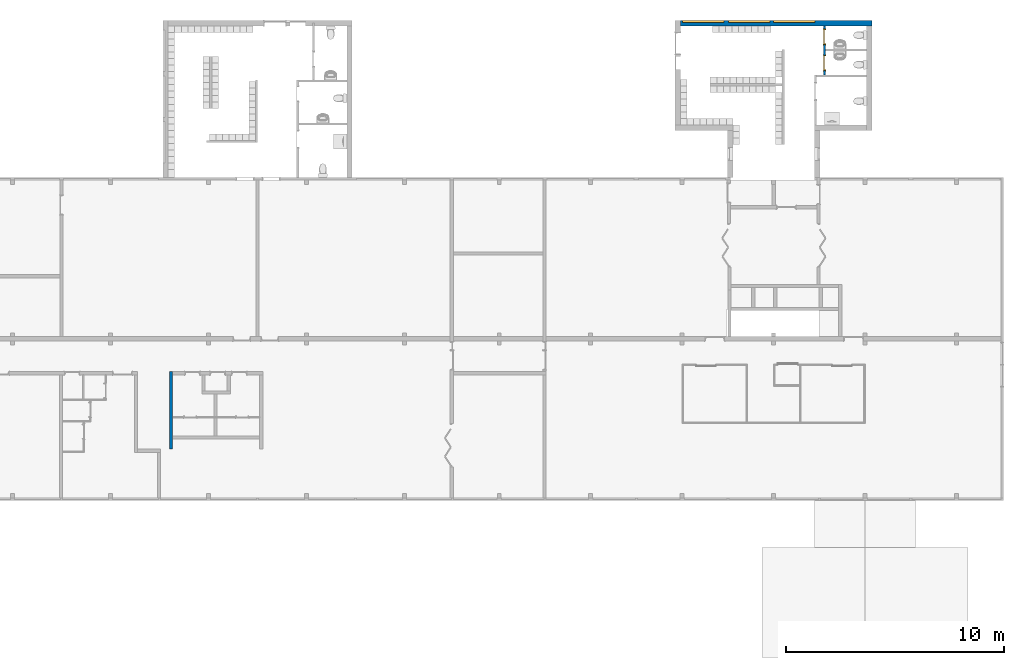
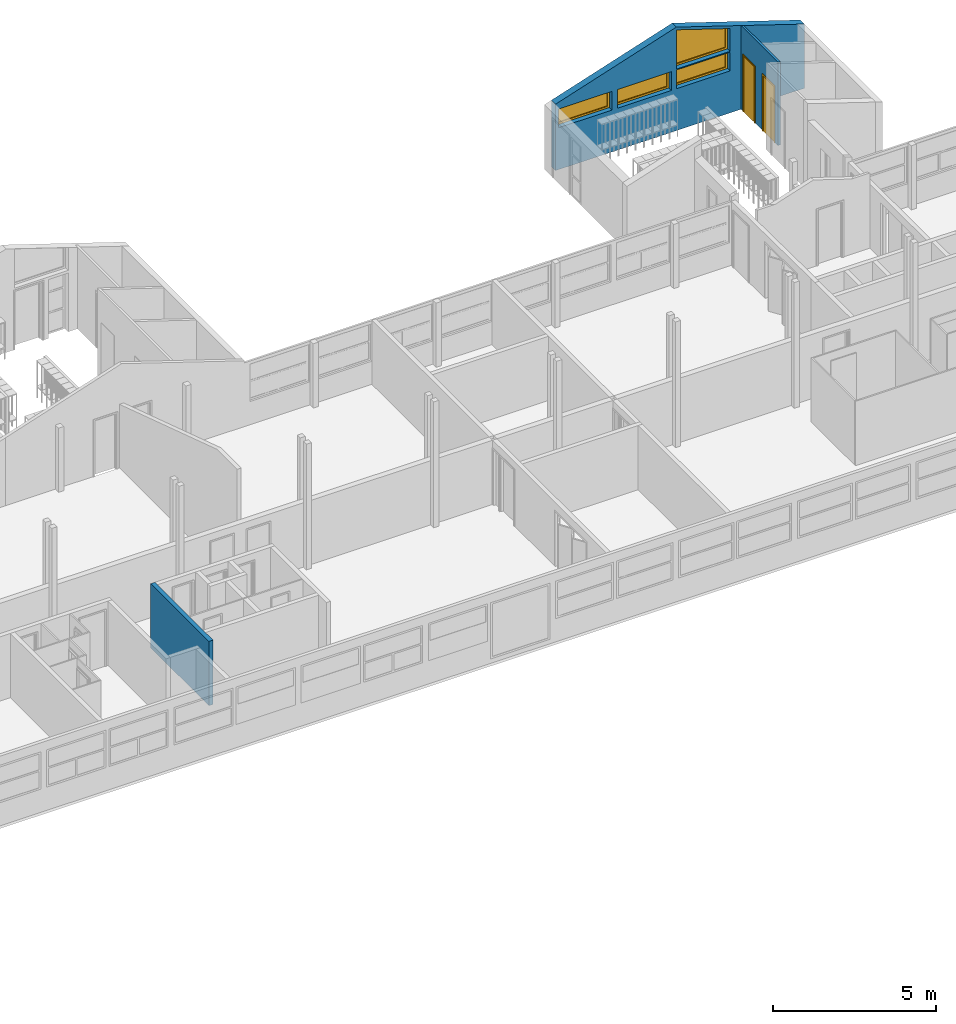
# One storey, part 29 of 48: 4 windows, 3 walls, 2 doors, 6 openings.
"""IFC2X3 building model written with IfcOpenShell, lengths in millimetres."""

from ifc_helpers import new_model, entity, si_unit, converted_unit, derived_unit, money_unit, direction, frame, origin_with_axes, place, context, subcontext, project, spatial, open_shell, faceted_brep, surface_model, source, transform, mapped, material, type_object, element, fill, save


model = new_model("IFC2X3")

# Units and contexts
model_context = context("Model", 3, precision=0.01, world=origin_with_axes(), true_north=direction((0.0, 1.0)))
body_context = subcontext(model_context, "Body", "Model", "MODEL_VIEW")
ifc_project = project(units=[si_unit("LENGTHUNIT", "METRE", prefix="MILLI"), si_unit("AREAUNIT", "SQUARE_METRE"), si_unit("VOLUMEUNIT", "CUBIC_METRE"), converted_unit("PLANEANGLEUNIT", "DEGREE", entity("IfcPlaneAngleMeasure", 0.0174532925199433), si_unit("PLANEANGLEUNIT", "RADIAN"), dimensions=[0, 0, 0, 0, 0, 0, 0]), money_unit("USD"), converted_unit("TIMEUNIT", "Year", entity("IfcTimeMeasure", 31557600.0), si_unit("TIMEUNIT", "SECOND"), dimensions=[0, 0, 1, 0, 0, 0, 0]), si_unit("MASSUNIT", "GRAM", prefix="KILO"), si_unit("THERMODYNAMICTEMPERATUREUNIT", "DEGREE_CELSIUS"), si_unit("LUMINOUSINTENSITYUNIT", "LUMEN"), si_unit("ENERGYUNIT", "JOULE", prefix="MEGA"), derived_unit("THERMALCONDUCTANCEUNIT", [(si_unit("POWERUNIT", "WATT"), 1), (si_unit("LENGTHUNIT", "METRE"), -1), (si_unit("THERMODYNAMICTEMPERATUREUNIT", "KELVIN"), -1)]), derived_unit("SPECIFICHEATCAPACITYUNIT", [(si_unit("ENERGYUNIT", "JOULE"), 1), (si_unit("MASSUNIT", "GRAM", prefix="KILO"), -1), (si_unit("THERMODYNAMICTEMPERATUREUNIT", "KELVIN"), -1)]), derived_unit("MASSDENSITYUNIT", [(si_unit("MASSUNIT", "GRAM", prefix="KILO"), 1), (si_unit("VOLUMEUNIT", "CUBIC_METRE"), -1)])], contexts=[model_context])

# Site, building, storey
site_placement = place(None, origin_with_axes())
site = spatial("IfcSite", under=ifc_project, at=site_placement, Name="Site", CompositionType="ELEMENT")
building_placement = place(site_placement, origin_with_axes())
building = spatial("IfcBuilding", under=site, at=building_placement, Name="Building", CompositionType="ELEMENT")
storey_placement = place(building_placement, frame((0.0, 0.0, 3300.0), z_axis=(0.0, 0.0, 1.0), x_axis=(1.0, 0.0, 0.0)))
storey = spatial("IfcBuildingStorey", under=building, at=storey_placement, Name="1 ETG", CompositionType="ELEMENT", Elevation=3300.0)

# Wall
ifc_material = material(Name="GENERIC - INTERNAL FILLER")
wall_type_1 = type_object("IfcWallType", Name="GENERIC - INTERNAL FILLER 150", PredefinedType="NOTDEFINED")
wall_1_placement = place(storey_placement, frame((34199.99999999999, 9435.596156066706, 0.0), z_axis=(0.0, 0.0, 1.0), x_axis=(0.0, 1.0, 0.0)))
element("IfcWall", 1, at=wall_1_placement, inside=storey, type_object=wall_type_1, material=ifc_material, Name="SW - 001", context=body_context, shape_type="Brep", body=[
    faceted_brep([(3564.278820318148, -149.9999999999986, 2400.0), (3564.278820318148, 0.0, 2400.0), (0.0, 0.0, 2400.0), (0.0, -149.9999999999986, 2400.0), (3564.278820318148, -149.9999999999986, 0.0), (3564.278820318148, 0.0, 0.0), (0.0, 0.0, 0.0), (0.0, -149.9999999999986, 0.0)], [[[0, 1, 2, 3]], [[1, 0, 4, 5]], [[1, 5, 6, 2]], [[7, 3, 2, 6]], [[4, 0, 3, 7]], [[5, 4, 7, 6]]]),
])

# Wall, openings, windows
wall_type_2 = type_object("IfcWallType", Name="GENERIC - INTERNAL FILLER 250", PredefinedType="NOTDEFINED")
wall_2_placement = place(storey_placement, frame((57550.00001747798, 28994.83911737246, 0.0), z_axis=(0.0, 0.0, 1.0), x_axis=(1.0, 0.0, 0.0)))
wall_2 = element("IfcWall", 2, at=wall_2_placement, inside=storey, type_object=wall_type_2, material=ifc_material, Name="SW - 001", context=body_context, shape_type="Brep", body=[
    faceted_brep([(125.0, -125.0, 0.0), (8924.999232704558, -125.0, 0.0), (8924.999201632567, -125.0, 2399.999998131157), (4399.999598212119, -125.0, 3870.261786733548), (125.0, -125.0, 2481.229939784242), (2125.000000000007, -125.0, 1565.018749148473), (225.0000000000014, -125.0, 1565.018749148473), (225.0000000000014, -125.0, 2265.018749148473), (2125.000000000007, -125.0, 2265.018749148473), (6299.999982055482, -125.0, 3150.0), (6299.999982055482, -125.0, 2300.000000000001), (4399.999982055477, -125.0, 2300.000000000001), (4399.999982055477, -125.0, 3767.347422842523), (2324.999982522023, -125.0, 2265.018749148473), (4224.999982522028, -125.0, 2265.018749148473), (4224.999982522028, -125.0, 1565.018749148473), (2324.999982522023, -125.0, 1565.018749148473), (4399.999982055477, -125.0, 1565.018749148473), (4399.999982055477, -125.0, 2265.018749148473), (6299.999982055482, -125.0, 2265.018749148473), (6299.999982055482, -125.0, 1565.018749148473), (125.0, 125.0, 0.0), (8924.99919774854, 125.0, 0.0), (8924.99919774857, 125.0, 2399.999999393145), (4399.999598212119, 125.0, 3870.261786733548), (125.0, 125.0, 2481.229939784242), (2125.000000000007, 125.0, 1565.018749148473), (225.0000000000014, 125.0, 1565.018749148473), (225.0000000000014, 125.0, 2265.018749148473), (2125.000000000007, 125.0, 2265.018749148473), (6299.999982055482, 125.0, 3150.0), (6299.999982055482, 125.0, 2300.000000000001), (4399.999982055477, 125.0, 2300.000000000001), (4399.999982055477, 125.0, 3767.347422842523), (4224.999982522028, 125.0, 2265.018749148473), (2324.999982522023, 125.0, 2265.018749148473), (4224.999982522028, 125.0, 1565.018749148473), (2324.999982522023, 125.0, 1565.018749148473), (4399.999982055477, 125.0, 1565.018749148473), (4399.999982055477, 125.0, 2265.018749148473), (6299.999982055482, 125.0, 2265.018749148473), (6299.999982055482, 125.0, 1565.018749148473)], [[[0, 1, 2, 3, 4], [5, 6, 7, 8], [9, 10, 11, 12], [13, 14, 15, 16], [17, 18, 19, 20]], [[0, 21, 22, 1]], [[22, 23, 2, 1]], [[3, 2, 23, 24]], [[3, 24, 25, 4]], [[0, 4, 25, 21]], [[5, 26, 27, 6]], [[6, 27, 28, 7]], [[7, 28, 29, 8]], [[8, 29, 26, 5]], [[10, 9, 30, 31]], [[11, 10, 31, 32]], [[12, 11, 32, 33]], [[9, 12, 33, 30]], [[34, 14, 13, 35]], [[36, 15, 14, 34]], [[37, 16, 15, 36]], [[35, 13, 16, 37]], [[38, 39, 18, 17]], [[39, 40, 19, 18]], [[40, 41, 20, 19]], [[41, 38, 17, 20]], [[23, 22, 21, 25, 24], [28, 27, 26, 29], [30, 33, 32, 31], [36, 34, 35, 37], [38, 41, 40, 39]]]),
])
opening_1_placement = place(wall_2_placement, frame((1175.000000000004, 0.0, 1565.018749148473), z_axis=(0.0, 0.0, 1.0), x_axis=(1.0, 0.0, 0.0)))
opening_1 = element("IfcOpeningElement", 3, at=opening_1_placement, cuts=wall_2, Name="WD - 001", context=body_context, shape_type="Brep", body=[
    faceted_brep([(-950.0000000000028, -126.0000000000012, 700.0000000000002), (-950.0000000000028, -126.0000000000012, 0.0), (950.0000000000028, -126.0000000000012, 0.0), (950.0000000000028, -126.0000000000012, 700.0000000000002), (-950.0000000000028, 126.0000000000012, 700.0000000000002), (-950.0000000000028, 126.0000000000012, 0.0), (950.0000000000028, 126.0000000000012, 0.0), (950.0000000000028, 126.0000000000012, 700.0000000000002)], [[[0, 1, 2, 3]], [[4, 5, 1, 0]], [[5, 6, 2, 1]], [[6, 7, 3, 2]], [[7, 4, 0, 3]], [[6, 5, 4, 7]]]),
])
opening_2_placement = place(wall_2_placement, frame((5349.999982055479, 0.0, 2300.000000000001), z_axis=(0.0, 0.0, 1.0), x_axis=(1.0, 0.0, 0.0)))
opening_2 = element("IfcOpeningElement", 4, at=opening_2_placement, cuts=wall_2, Name="WD - 001", context=body_context, shape_type="Brep", body=[
    faceted_brep([(-950.0000000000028, -126.0000000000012, 1467.347422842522), (-950.0000000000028, -126.0000000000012, 0.0), (950.0000000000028, -126.0000000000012, 0.0), (950.0000000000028, -126.0000000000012, 849.9999999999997), (-950.0000000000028, 126.0000000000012, 1467.347422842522), (-950.0000000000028, 126.0000000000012, 0.0), (950.0000000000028, 126.0000000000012, 0.0), (950.0000000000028, 126.0000000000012, 849.9999999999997)], [[[0, 1, 2, 3]], [[4, 5, 1, 0]], [[5, 6, 2, 1]], [[6, 7, 3, 2]], [[7, 4, 0, 3]], [[6, 5, 4, 7]]]),
])
opening_3_placement = place(wall_2_placement, frame((3274.999982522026, 0.0, 1565.018749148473), z_axis=(0.0, 0.0, 1.0), x_axis=(1.0, 0.0, 0.0)))
opening_3 = element("IfcOpeningElement", 5, at=opening_3_placement, cuts=wall_2, Name="WD - 001", context=body_context, shape_type="Brep", body=[
    faceted_brep([(-950.0000000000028, -126.0000000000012, 700.0000000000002), (-950.0000000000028, -126.0000000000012, 0.0), (950.0000000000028, -126.0000000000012, 0.0), (950.0000000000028, -126.0000000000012, 700.0000000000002), (-950.0000000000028, 126.0000000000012, 700.0000000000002), (-950.0000000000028, 126.0000000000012, 0.0), (950.0000000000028, 126.0000000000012, 0.0), (950.0000000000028, 126.0000000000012, 700.0000000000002)], [[[0, 1, 2, 3]], [[4, 5, 1, 0]], [[5, 6, 2, 1]], [[6, 7, 3, 2]], [[7, 4, 0, 3]], [[6, 5, 4, 7]]]),
])
opening_4_placement = place(wall_2_placement, frame((5349.999982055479, 0.0, 1565.018749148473), z_axis=(0.0, 0.0, 1.0), x_axis=(1.0, 0.0, 0.0)))
opening_4 = element("IfcOpeningElement", 6, at=opening_4_placement, cuts=wall_2, Name="WD - 001", context=body_context, shape_type="Brep", body=[
    faceted_brep([(-950.0000000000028, -126.0000000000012, 700.0000000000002), (-950.0000000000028, -126.0000000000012, 0.0), (950.0000000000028, -126.0000000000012, 0.0), (950.0000000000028, -126.0000000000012, 700.0000000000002), (-950.0000000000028, 126.0000000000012, 700.0000000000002), (-950.0000000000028, 126.0000000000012, 0.0), (950.0000000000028, 126.0000000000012, 0.0), (950.0000000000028, 126.0000000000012, 700.0000000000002)], [[[0, 1, 2, 3]], [[4, 5, 1, 0]], [[5, 6, 2, 1]], [[6, 7, 3, 2]], [[7, 4, 0, 3]], [[6, 5, 4, 7]]]),
])
window_style_1 = type_object("IfcWindowStyle", Name="Vindu", ConstructionType="NOTDEFINED", OperationType="SINGLE_PANEL", ParameterTakesPrecedence=False, Sizeable=False)
shared_shape_1 = source(origin_with_axes(), body_context, "Body", "SurfaceModel", [
    faceted_brep([(-883.9999999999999, -92.00000000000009, 633.9999999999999), (-883.9999999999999, 0.0, 633.9999999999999), (-950.0, 0.0, 633.9999999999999), (-950.0, -92.00000000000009, 633.9999999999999), (-883.9999999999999, -92.0, 66.0), (-883.9999999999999, 0.0, 66.0), (-950.0, 0.0, 66.0), (-950.0, -92.0, 66.0)], [[[0, 1, 2, 3]], [[4, 5, 1, 0]], [[1, 5, 6, 2]], [[3, 2, 6, 7]], [[0, 3, 7, 4]], [[7, 6, 5, 4]]]),
    faceted_brep([(883.9999999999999, -92.0, 66.0), (883.9999999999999, 0.0, 66.0), (950.0, 0.0, 66.0), (950.0, -92.0, 66.0), (883.9999999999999, -92.00000000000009, 633.9999999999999), (883.9999999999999, 0.0, 633.9999999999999), (950.0, 0.0, 633.9999999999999), (950.0, -92.00000000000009, 633.9999999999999)], [[[0, 1, 2, 3]], [[4, 5, 1, 0]], [[1, 5, 6, 2]], [[3, 2, 6, 7]], [[0, 3, 7, 4]], [[7, 6, 5, 4]]]),
    faceted_brep([(-883.9999999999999, -92.0, 66.0), (-883.9999999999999, 0.0, 66.0), (-950.0, 0.0, 66.0), (-950.0, -92.0, 66.0), (883.9999999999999, -92.0, 66.0), (883.9999999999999, 0.0, 66.0), (950.0, 0.0, 66.0), (950.0, 0.0, 0.0), (-950.0, 0.0, 0.0), (-950.0, -92.0, 0.0), (950.0, -92.0, 0.0), (950.0, -92.0, 66.0)], [[[0, 1, 2, 3]], [[4, 5, 1, 0]], [[1, 5, 6, 7, 8, 2]], [[3, 2, 8, 9]], [[0, 3, 9, 10, 11, 4]], [[11, 6, 5, 4]], [[10, 7, 6, 11]], [[9, 8, 7, 10]]]),
    faceted_brep([(883.9999999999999, -92.00000000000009, 633.9999999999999), (883.9999999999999, 0.0, 633.9999999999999), (950.0, 0.0, 633.9999999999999), (950.0, -92.00000000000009, 633.9999999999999), (-883.9999999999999, -92.00000000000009, 633.9999999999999), (-883.9999999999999, 0.0, 633.9999999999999), (-950.0, 0.0, 633.9999999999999), (-950.0, 0.0, 700.0), (950.0, 0.0, 700.0), (950.0, -92.00000000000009, 700.0), (-950.0, -92.00000000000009, 700.0), (-950.0, -92.00000000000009, 633.9999999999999)], [[[0, 1, 2, 3]], [[4, 5, 1, 0]], [[1, 5, 6, 7, 8, 2]], [[3, 2, 8, 9]], [[0, 3, 9, 10, 11, 4]], [[11, 6, 5, 4]], [[10, 7, 6, 11]], [[9, 8, 7, 10]]]),
    surface_model("IfcShellBasedSurfaceModel", [(-883.9999999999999, -56.0, 66.0), (883.9999999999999, -56.0, 66.0), (883.9999999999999, -56.00000000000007, 633.9999999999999), (-883.9999999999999, -56.00000000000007, 633.9999999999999)], [open_shell([[[0, 1, 2, 3]]])]),
    surface_model("IfcShellBasedSurfaceModel", [(-883.9999999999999, -36.00000000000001, 66.0), (-883.9999999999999, -36.00000000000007, 633.9999999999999), (883.9999999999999, -36.00000000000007, 633.9999999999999), (883.9999999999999, -36.00000000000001, 66.0)], [open_shell([[[0, 1, 2, 3]]])]),
])
window_1_placement = place(opening_4_placement, frame((-950.0000000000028, 0.0, 0.0), z_axis=(0.0, 0.0, 1.0), x_axis=(1.0, 0.0, 0.0)))
window_1 = element("IfcWindow", 7, at=window_1_placement, inside=storey, type_object=window_style_1, Name="WD - 001", ObjectType="WINDOW", OverallHeight=700.0, OverallWidth=1900.0, context=body_context, shape_type="MappedRepresentation", body=[
    mapped(shared_shape_1, transform((950.0000000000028, 125.0, 0.0))),
])
fill(opening_4, window_1)
shared_shape_2 = source(origin_with_axes(), body_context, "Body", "SurfaceModel", [
    faceted_brep([(883.9999999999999, -92.00000000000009, 633.9999999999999), (950.0, -92.00000000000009, 633.9999999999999), (950.0, 0.0, 633.9999999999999), (883.9999999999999, 0.0, 633.9999999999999), (883.9999999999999, -92.0, 66.0), (950.0, -92.0, 66.0), (950.0, 0.0, 66.0), (883.9999999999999, 0.0, 66.0)], [[[0, 1, 2, 3]], [[0, 4, 5, 1]], [[1, 5, 6, 2]], [[3, 2, 6, 7]], [[4, 0, 3, 7]], [[5, 4, 7, 6]]]),
    faceted_brep([(-883.9999999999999, -92.0, 66.0), (-950.0, -92.0, 66.0), (-950.0, 0.0, 66.0), (-883.9999999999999, 0.0, 66.0), (-883.9999999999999, -92.00000000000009, 633.9999999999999), (-950.0, -92.00000000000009, 633.9999999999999), (-950.0, 0.0, 633.9999999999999), (-883.9999999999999, 0.0, 633.9999999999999)], [[[0, 1, 2, 3]], [[0, 4, 5, 1]], [[1, 5, 6, 2]], [[3, 2, 6, 7]], [[4, 0, 3, 7]], [[5, 4, 7, 6]]]),
    faceted_brep([(883.9999999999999, -92.0, 66.0), (950.0, -92.0, 66.0), (950.0, 0.0, 66.0), (883.9999999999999, 0.0, 66.0), (-883.9999999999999, -92.0, 66.0), (-950.0, -92.0, 66.0), (-950.0, -92.0, 0.0), (950.0, -92.0, 0.0), (950.0, 0.0, 0.0), (-950.0, 0.0, 0.0), (-950.0, 0.0, 66.0), (-883.9999999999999, 0.0, 66.0)], [[[0, 1, 2, 3]], [[0, 4, 5, 6, 7, 1]], [[1, 7, 8, 2]], [[3, 2, 8, 9, 10, 11]], [[4, 0, 3, 11]], [[5, 4, 11, 10]], [[6, 5, 10, 9]], [[7, 6, 9, 8]]]),
    faceted_brep([(-883.9999999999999, -92.00000000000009, 633.9999999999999), (-950.0, -92.00000000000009, 633.9999999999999), (-950.0, 0.0, 633.9999999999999), (-883.9999999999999, 0.0, 633.9999999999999), (883.9999999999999, -92.00000000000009, 633.9999999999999), (950.0, -92.00000000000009, 633.9999999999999), (950.0, -92.00000000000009, 700.0), (-950.0, -92.00000000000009, 700.0), (-950.0, 0.0, 700.0), (950.0, 0.0, 700.0), (950.0, 0.0, 633.9999999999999), (883.9999999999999, 0.0, 633.9999999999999)], [[[0, 1, 2, 3]], [[0, 4, 5, 6, 7, 1]], [[1, 7, 8, 2]], [[3, 2, 8, 9, 10, 11]], [[4, 0, 3, 11]], [[5, 4, 11, 10]], [[6, 5, 10, 9]], [[7, 6, 9, 8]]]),
    surface_model("IfcShellBasedSurfaceModel", [(883.9999999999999, -56.0, 66.0), (883.9999999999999, -56.00000000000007, 633.9999999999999), (-883.9999999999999, -56.00000000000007, 633.9999999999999), (-883.9999999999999, -56.0, 66.0)], [open_shell([[[0, 1, 2, 3]]])]),
    surface_model("IfcShellBasedSurfaceModel", [(883.9999999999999, -36.00000000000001, 66.0), (-883.9999999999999, -36.00000000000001, 66.0), (-883.9999999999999, -36.00000000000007, 633.9999999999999), (883.9999999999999, -36.00000000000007, 633.9999999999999)], [open_shell([[[0, 1, 2, 3]]])]),
])
window_2_placement = place(opening_1_placement, frame((-950.0000000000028, 0.0, 0.0), z_axis=(0.0, 0.0, 1.0), x_axis=(1.0, 0.0, 0.0)))
window_2 = element("IfcWindow", 8, at=window_2_placement, inside=storey, type_object=window_style_1, Name="WD - 001", ObjectType="WINDOW", OverallHeight=700.0, OverallWidth=1900.0, context=body_context, shape_type="MappedRepresentation", body=[
    mapped(shared_shape_2, transform((950.0000000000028, 125.0, 0.0))),
])
fill(opening_1, window_2)
window_3_placement = place(opening_3_placement, frame((-950.0000000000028, 0.0, 0.0), z_axis=(0.0, 0.0, 1.0), x_axis=(1.0, 0.0, 0.0)))
window_3 = element("IfcWindow", 9, at=window_3_placement, inside=storey, type_object=window_style_1, Name="WD - 001", ObjectType="WINDOW", OverallHeight=700.0, OverallWidth=1900.0, context=body_context, shape_type="MappedRepresentation", body=[
    mapped(shared_shape_2, transform((950.0000000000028, 125.0, 0.0))),
])
fill(opening_3, window_3)
window_style_2 = type_object("IfcWindowStyle", Name="Vindu med skrå topp", ConstructionType="NOTDEFINED", OperationType="USERDEFINED", ParameterTakesPrecedence=False, Sizeable=False)
shared_shape_3 = source(origin_with_axes(), body_context, "Body", "SurfaceModel", [
    faceted_brep([(883.9999999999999, -92.00000000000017, 1376.506216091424), (950.0, -92.00000000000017, 1376.506216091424), (950.0, 0.0, 1376.506216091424), (883.9999999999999, 0.0, 1376.506216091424), (883.9999999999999, -92.0, 66.0), (950.0, -92.0, 66.0), (950.0, 0.0, 66.0), (883.9999999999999, 0.0, 66.0)], [[[0, 1, 2, 3]], [[0, 4, 5, 1]], [[1, 5, 6, 2]], [[3, 2, 6, 7]], [[4, 0, 3, 7]], [[5, 4, 7, 6]]]),
    faceted_brep([(-883.9999999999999, -92.0, 66.0), (-950.0, -92.0, 66.0), (-950.0, 0.0, 66.0), (-883.9999999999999, 0.0, 66.0), (-883.9999999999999, -92.0000000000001, 802.0481931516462), (-950.0, -92.0000000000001, 802.0481931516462), (-950.0, 0.0, 802.0481931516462), (-883.9999999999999, 0.0, 802.0481931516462)], [[[0, 1, 2, 3]], [[0, 4, 5, 1]], [[1, 5, 6, 2]], [[3, 2, 6, 7]], [[4, 0, 3, 7]], [[5, 4, 7, 6]]]),
    faceted_brep([(950.0, -92.00000000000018, 1467.347422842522), (950.0, -92.00000000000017, 1376.506216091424), (950.0, 0.0, 1376.506216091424), (950.0, 0.0, 1467.347422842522), (-950.0, -92.0000000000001, 850.0), (-950.0, -92.0000000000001, 802.0481931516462), (-883.9999999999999, -92.0000000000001, 802.0481931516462), (883.9999999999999, -92.00000000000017, 1376.506216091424), (883.9999999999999, 0.0, 1376.506216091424), (-883.9999999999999, 0.0, 802.0481931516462), (-950.0, 0.0, 802.0481931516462), (-950.0, 0.0, 850.0)], [[[0, 1, 2, 3]], [[0, 4, 5, 6, 7, 1]], [[1, 7, 8, 2]], [[3, 2, 8, 9, 10, 11]], [[4, 0, 3, 11]], [[5, 4, 11, 10]], [[6, 5, 10, 9]], [[7, 6, 9, 8]]]),
    faceted_brep([(-950.0, -92.0, 0.0), (-950.0, -92.0, 66.0), (-950.0, 0.0, 66.0), (-950.0, 0.0, 0.0), (950.0, -92.0, 0.0), (950.0, -92.0, 66.0), (883.9999999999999, -92.0, 66.0), (-883.9999999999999, -92.0, 66.0), (-883.9999999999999, 0.0, 66.0), (883.9999999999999, 0.0, 66.0), (950.0, 0.0, 66.0), (950.0, 0.0, 0.0)], [[[0, 1, 2, 3]], [[0, 4, 5, 6, 7, 1]], [[1, 7, 8, 2]], [[3, 2, 8, 9, 10, 11]], [[4, 0, 3, 11]], [[5, 4, 11, 10]], [[6, 5, 10, 9]], [[7, 6, 9, 8]]]),
    surface_model("IfcShellBasedSurfaceModel", [(883.9999999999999, -56.0, 66.0), (883.9999999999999, -56.00000000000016, 1376.506216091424), (-883.9999999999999, -56.00000000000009, 802.0481931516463), (-883.9999999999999, -56.0, 66.0)], [open_shell([[[0, 1, 2, 3]]])]),
    surface_model("IfcShellBasedSurfaceModel", [(883.9999999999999, -36.00000000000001, 66.0), (-883.9999999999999, -36.00000000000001, 66.0), (-883.9999999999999, -36.00000000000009, 802.0481931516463), (883.9999999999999, -36.00000000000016, 1376.506216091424)], [open_shell([[[0, 1, 2, 3]]])]),
])
window_4_placement = place(opening_2_placement, frame((950.0000000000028, 0.0, 0.0), z_axis=(0.0, 0.0, 1.0), x_axis=(-1.0, 0.0, 0.0)))
window_4 = element("IfcWindow", 10, at=window_4_placement, inside=storey, type_object=window_style_2, Name="WD - 001", ObjectType="WINDOW", OverallHeight=1467.35, OverallWidth=1900.0, context=body_context, shape_type="MappedRepresentation", body=[
    mapped(shared_shape_3, transform((950.0000000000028, -33.00000000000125, 0.0))),
])
fill(opening_2, window_4)

# Wall, openings, doors
wall_type_3 = type_object("IfcWallType", Name="GENERIC - INTERNAL FILLER 100", PredefinedType="NOTDEFINED")
wall_3_placement = place(storey_placement, frame((64289.99987024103, 26619.70082556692, 0.0), z_axis=(0.0, 0.0, 1.0), x_axis=(2.017991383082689e-09, 1.0, 0.0)))
wall_3 = element("IfcWall", 11, at=wall_3_placement, inside=storey, type_object=wall_type_3, material=ifc_material, Name="SW - 001", context=body_context, shape_type="Brep", body=[
    faceted_brep([(199.9999691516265, -49.99999959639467, 0.0), (199.9999691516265, -49.99999959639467, 2100.0), (899.9999691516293, -49.99999818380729, 2100.0), (899.9999691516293, -49.99999818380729, 0.0), (1400.138295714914, -49.99999717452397, 0.0), (1400.138295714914, -49.99999717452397, 2100.0), (2100.138295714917, -49.99999576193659, 2100.0), (2100.138295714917, -49.99999576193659, 0.0), (2250.138291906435, -49.99999545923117, 0.0), (2250.138291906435, -49.99999545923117, 3093.703475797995), (1.00900621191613e-07, -49.99999999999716, 3093.703475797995), (1.00900621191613e-07, -49.99999999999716, 0.0), (199.9999689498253, 50.00000040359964, 0.0), (199.9999689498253, 50.00000040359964, 2100.0), (899.9999689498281, 50.00000181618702, 2100.0), (899.9999689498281, 50.00000181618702, 0.0), (1400.138295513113, 50.00000282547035, 0.0), (1400.138295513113, 50.00000282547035, 2100.0), (2100.138295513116, 50.00000423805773, 2100.0), (2100.138295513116, 50.00000423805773, 0.0), (2250.138291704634, 50.00000454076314, 0.0), (2250.138291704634, 50.00000454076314, 3126.195451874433), (-1.00900621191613e-07, 49.99999999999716, 3126.195451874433), (-1.00900621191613e-07, 49.99999999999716, 0.0)], [[[0, 1, 2, 3, 4, 5, 6, 7, 8, 9, 10, 11]], [[1, 0, 12, 13]], [[2, 1, 13, 14]], [[3, 2, 14, 15]], [[3, 15, 16, 4]], [[4, 16, 17, 5]], [[5, 17, 18, 6]], [[6, 18, 19, 7]], [[19, 20, 8, 7]], [[9, 8, 20, 21]], [[9, 21, 22, 10]], [[22, 23, 11, 10]], [[12, 0, 11, 23]], [[13, 12, 23, 22, 21, 20, 19, 18, 17, 16, 15, 14]]]),
])
opening_5_placement = place(wall_3_placement, frame((549.999969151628, 0.0, 0.0), z_axis=(0.0, 0.0, 1.0), x_axis=(1.0, 0.0, 0.0)))
opening_5 = element("IfcOpeningElement", 12, at=opening_5_placement, cuts=wall_3, Name="DOO - 002", context=body_context, shape_type="Brep", body=[
    faceted_brep([(349.9999997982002, 50.00000181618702, 0.0), (349.9999997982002, 50.00000181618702, 2100.0), (350.0000000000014, -49.99999818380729, 2100.0), (350.0000000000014, -49.99999818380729, 0.0), (-350.0000002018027, 50.00000040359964, 2100.0), (386.9999997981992, 50.00000189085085, 0.0), (386.9999997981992, 50.00000189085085, 2137.0), (-387.0000002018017, 50.00000032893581, 2137.0), (-387.0000002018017, 50.00000032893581, 0.0), (-350.0000002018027, 50.00000040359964, 0.0), (-350.0000000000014, -49.99999959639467, 2100.0), (-350.0000000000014, -49.99999959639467, 0.0), (-387.0000000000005, -49.9999996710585, 0.0), (-387.0000000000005, -49.9999996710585, 2137.0), (387.0000000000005, -49.99999810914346, 2137.0), (387.0000000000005, -49.99999810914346, 0.0), (349.9999997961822, 51.0000018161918, 0.0), (350.0000000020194, -51.00000297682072, 0.0), (-349.9999999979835, -51.0000043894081, 0.0), (-350.0000002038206, 51.00000040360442, 0.0), (386.9999997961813, 51.00000189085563, 0.0), (386.9999997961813, 51.00000189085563, 2137.0), (-387.0000002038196, 51.00000032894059, 2137.0), (-387.0000002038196, 51.00000032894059, 0.0), (-386.9999999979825, -51.00000446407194, 0.0), (-386.9999999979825, -51.00000446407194, 2137.0), (387.0000000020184, -51.00000290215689, 2137.0), (387.0000000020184, -51.00000290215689, 0.0), (349.9999997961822, 51.0000018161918, 2100.0), (-350.0000002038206, 51.00000040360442, 2100.0)], [[[0, 1, 2, 3]], [[4, 1, 0, 5, 6, 7, 8, 9]], [[1, 4, 10, 2]], [[3, 2, 10, 11, 12, 13, 14, 15]], [[16, 0, 3, 17, 18, 11, 9, 19]], [[0, 16, 20, 5]], [[6, 5, 20, 21]], [[7, 6, 21, 22]], [[8, 7, 22, 23]], [[19, 9, 8, 23]], [[4, 9, 11, 10]], [[11, 18, 24, 12]], [[13, 12, 24, 25]], [[14, 13, 25, 26]], [[15, 14, 26, 27]], [[17, 3, 15, 27]], [[17, 27, 26, 25, 24, 18]], [[28, 16, 19, 29]], [[16, 28, 29, 19, 23, 22, 21, 20]]]),
])
opening_6_placement = place(wall_3_placement, frame((1750.138295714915, 0.0, 0.0), z_axis=(0.0, 0.0, 1.0), x_axis=(1.0, 0.0, 0.0)))
opening_6 = element("IfcOpeningElement", 13, at=opening_6_placement, cuts=wall_3, Name="DOO - 002", context=body_context, shape_type="Brep", body=[
    faceted_brep([(349.9999997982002, 50.00000423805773, 0.0), (349.9999997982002, 50.00000423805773, 2100.0), (350.0000000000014, -49.99999576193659, 2100.0), (350.0000000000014, -49.99999576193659, 0.0), (-350.0000002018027, 50.00000282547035, 2100.0), (386.9999997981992, 50.00000431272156, 0.0), (386.9999997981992, 50.00000431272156, 2137.0), (-387.0000002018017, 50.00000275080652, 2137.0), (-387.0000002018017, 50.00000275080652, 0.0), (-350.0000002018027, 50.00000282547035, 0.0), (-350.0000000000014, -49.99999717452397, 2100.0), (-350.0000000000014, -49.99999717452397, 0.0), (-387.0000000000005, -49.9999972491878, 0.0), (-387.0000000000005, -49.9999972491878, 2137.0), (387.0000000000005, -49.99999568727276, 2137.0), (387.0000000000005, -49.99999568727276, 0.0), (349.9999997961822, 51.0000042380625, 0.0), (350.0000000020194, -51.00000055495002, 0.0), (-349.9999999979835, -51.0000019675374, 0.0), (-350.0000002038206, 51.00000282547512, 0.0), (386.9999997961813, 51.00000431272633, 0.0), (386.9999997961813, 51.00000431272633, 2137.0), (-387.0000002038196, 51.00000275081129, 2137.0), (-387.0000002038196, 51.00000275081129, 0.0), (-386.9999999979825, -51.00000204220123, 0.0), (-386.9999999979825, -51.00000204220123, 2137.0), (387.0000000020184, -51.00000048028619, 2137.0), (387.0000000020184, -51.00000048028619, 0.0), (349.9999997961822, 51.0000042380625, 2100.0), (-350.0000002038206, 51.00000282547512, 2100.0)], [[[0, 1, 2, 3]], [[4, 1, 0, 5, 6, 7, 8, 9]], [[1, 4, 10, 2]], [[3, 2, 10, 11, 12, 13, 14, 15]], [[16, 0, 3, 17, 18, 11, 9, 19]], [[0, 16, 20, 5]], [[6, 5, 20, 21]], [[7, 6, 21, 22]], [[8, 7, 22, 23]], [[19, 9, 8, 23]], [[4, 9, 11, 10]], [[11, 18, 24, 12]], [[13, 12, 24, 25]], [[14, 13, 25, 26]], [[15, 14, 26, 27]], [[17, 3, 15, 27]], [[17, 27, 26, 25, 24, 18]], [[28, 16, 19, 29]], [[16, 28, 29, 19, 23, 22, 21, 20]]]),
])
door_style = type_object("IfcDoorStyle", Name="Dør", ConstructionType="NOTDEFINED", OperationType="SINGLE_SWING_RIGHT", ParameterTakesPrecedence=False, Sizeable=False)
shared_shape_4 = source(origin_with_axes(), body_context, "Body", "Brep", [
    faceted_brep([(-386.9999999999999, -119.0, 0.0), (-386.9999999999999, -100.0, 0.0), (-336.9999999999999, -100.0, 0.0), (-336.9999999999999, -119.0, 0.0), (-386.9999999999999, -119.0000000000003, 2137.0), (-386.9999999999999, -100.0000000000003, 2137.0), (-336.9999999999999, -100.0000000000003, 2087.0), (-336.9999999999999, -119.0000000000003, 2087.0)], [[[0, 1, 2, 3]], [[4, 5, 1, 0]], [[1, 5, 6, 2]], [[3, 2, 6, 7]], [[0, 3, 7, 4]], [[7, 6, 5, 4]]]),
    faceted_brep([(386.9999999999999, -119.0000000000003, 2137.0), (386.9999999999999, -100.0000000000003, 2137.0), (336.9999999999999, -100.0000000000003, 2087.0), (336.9999999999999, -119.0000000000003, 2087.0), (386.9999999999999, -119.0, 0.0), (386.9999999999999, -100.0, 0.0), (336.9999999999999, -100.0, 0.0), (336.9999999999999, -119.0, 0.0)], [[[0, 1, 2, 3]], [[4, 5, 1, 0]], [[1, 5, 6, 2]], [[3, 2, 6, 7]], [[0, 3, 7, 4]], [[7, 6, 5, 4]]]),
    faceted_brep([(-386.9999999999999, -119.0000000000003, 2137.0), (-386.9999999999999, -100.0000000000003, 2137.0), (-336.9999999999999, -100.0000000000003, 2087.0), (-336.9999999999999, -119.0000000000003, 2087.0), (386.9999999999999, -119.0000000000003, 2137.0), (386.9999999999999, -100.0000000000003, 2137.0), (336.9999999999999, -100.0000000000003, 2087.0), (336.9999999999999, -119.0000000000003, 2087.0)], [[[0, 1, 2, 3]], [[4, 5, 1, 0]], [[1, 5, 6, 2]], [[3, 2, 6, 7]], [[0, 3, 7, 4]], [[7, 6, 5, 4]]]),
    faceted_brep([(-386.9999999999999, 19.0, 0.0), (-336.9999999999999, 19.0, 0.0), (-336.9999999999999, 0.0, 0.0), (-386.9999999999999, 0.0, 0.0), (-386.9999999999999, 18.99999999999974, 2137.0), (-336.9999999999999, 18.99999999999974, 2087.0), (-336.9999999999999, 0.0, 2087.0), (-386.9999999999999, 0.0, 2137.0)], [[[0, 1, 2, 3]], [[0, 4, 5, 1]], [[1, 5, 6, 2]], [[3, 2, 6, 7]], [[4, 0, 3, 7]], [[5, 4, 7, 6]]]),
    faceted_brep([(386.9999999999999, 18.99999999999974, 2137.0), (336.9999999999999, 18.99999999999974, 2087.0), (336.9999999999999, 0.0, 2087.0), (386.9999999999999, 0.0, 2137.0), (386.9999999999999, 19.0, 0.0), (336.9999999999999, 19.0, 0.0), (336.9999999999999, 0.0, 0.0), (386.9999999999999, 0.0, 0.0)], [[[0, 1, 2, 3]], [[0, 4, 5, 1]], [[1, 5, 6, 2]], [[3, 2, 6, 7]], [[4, 0, 3, 7]], [[5, 4, 7, 6]]]),
    faceted_brep([(-387.0, 18.99999999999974, 2137.0), (-336.9999999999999, 18.99999999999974, 2087.0), (-336.9999999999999, 0.0, 2087.0), (-387.0, 0.0, 2137.0), (387.0, 18.99999999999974, 2137.0), (336.9999999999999, 18.99999999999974, 2087.0), (336.9999999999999, 0.0, 2087.0), (387.0, 0.0, 2137.0)], [[[0, 1, 2, 3]], [[0, 4, 5, 1]], [[1, 5, 6, 2]], [[3, 2, 6, 7]], [[4, 0, 3, 7]], [[5, 4, 7, 6]]]),
    faceted_brep([(-350.0, 0.0, 0.0), (-310.0, 0.0, 0.0), (-310.0, -115.0, 0.0), (-350.0, -115.0, 0.0), (-350.0, 0.0, 2060.0), (-310.0, 0.0, 2060.0), (-310.0, -115.0, 2060.0), (-350.0, -115.0, 2060.0)], [[[0, 1, 2, 3]], [[0, 4, 5, 1]], [[1, 5, 6, 2]], [[3, 2, 6, 7]], [[4, 0, 3, 7]], [[5, 4, 7, 6]]]),
    faceted_brep([(350.0, 0.0, 0.0), (350.0, 0.0, 2060.0), (350.0, -115.0, 2060.0), (350.0, -115.0, 0.0), (310.0, 0.0, 0.0), (310.0, 0.0, 2060.0), (310.0, -115.0, 2060.0), (310.0, -115.0, 0.0)], [[[0, 1, 2, 3]], [[0, 4, 5, 1]], [[1, 5, 6, 2]], [[3, 2, 6, 7]], [[4, 0, 3, 7]], [[5, 4, 7, 6]]]),
    faceted_brep([(-350.0, 0.0, 2100.0), (-350.0, 0.0, 2060.0), (-350.0, -115.0, 2060.0), (-350.0, -115.0, 2100.0), (350.0, 0.0, 2100.0), (350.0, 0.0, 2060.0), (310.0, 0.0, 2060.0), (-310.0, 0.0, 2060.0), (-310.0, -115.0, 2060.0), (310.0, -115.0, 2060.0), (350.0, -115.0, 2060.0), (350.0, -115.0, 2100.0)], [[[0, 1, 2, 3]], [[0, 4, 5, 6, 7, 1]], [[1, 7, 8, 2]], [[3, 2, 8, 9, 10, 11]], [[4, 0, 3, 11]], [[5, 4, 11, 10]], [[6, 5, 10, 9]], [[7, 6, 9, 8]]]),
    faceted_brep([(309.9999999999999, 0.0, 0.0), (309.9999999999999, -40.0, 0.0), (-310.0, -40.0, 0.0), (-310.0, 0.0, 0.0), (309.9999999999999, 0.0, 2060.0), (309.9999999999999, -40.00000000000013, 2060.0), (-310.0, -40.00000000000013, 2060.0), (-310.0, 0.0, 2060.0)], [[[0, 1, 2, 3]], [[4, 5, 1, 0]], [[1, 5, 6, 2]], [[3, 2, 6, 7]], [[0, 3, 7, 4]], [[7, 6, 5, 4]]]),
])
door_1_placement = place(opening_6_placement, frame((-350.0000000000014, 0.0, 0.0), z_axis=(0.0, 0.0, 1.0), x_axis=(1.0, 0.0, 0.0)))
door_1 = element("IfcDoor", 14, at=door_1_placement, inside=storey, type_object=door_style, Name="DOO - 002", ObjectType="DOOR", OverallHeight=2100.0, OverallWidth=700.0, context=body_context, shape_type="MappedRepresentation", body=[
    mapped(shared_shape_4, transform((349.9999997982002, 50.00000353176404, 0.0))),
])
fill(opening_6, door_1)
door_2_placement = place(opening_5_placement, frame((-350.0000000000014, 0.0, 0.0), z_axis=(0.0, 0.0, 1.0), x_axis=(1.0, 0.0, 0.0)))
door_2 = element("IfcDoor", 15, at=door_2_placement, inside=storey, type_object=door_style, Name="DOO - 002", ObjectType="DOOR", OverallHeight=2100.0, OverallWidth=700.0, context=body_context, shape_type="MappedRepresentation", body=[
    mapped(shared_shape_4, transform((349.9999997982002, 50.00000110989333, 0.0))),
])
fill(opening_5, door_2)

save(model, "model.ifc")
